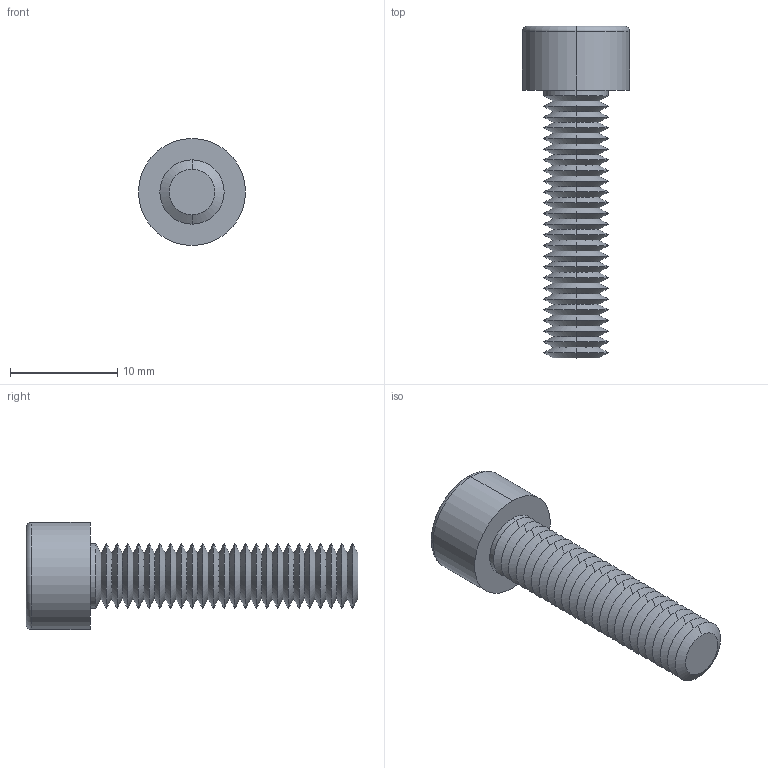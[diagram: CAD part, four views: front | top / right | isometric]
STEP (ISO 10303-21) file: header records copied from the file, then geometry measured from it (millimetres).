
FILE_DESCRIPTION (( 'STEP AP203' ), '1' );
FILE_NAME ('91N.060.0250.step', '2025-05-20T08:52:54', ( '' ), ( '' ), 'SwSTEP 2.0', 'SolidWorks 2019', '' );
FILE_SCHEMA (( 'CONFIG_CONTROL_DESIGN' ));
Length unit declared in the file: millimetre
Products named in the file (1): 91N.060.0250
Bounding box: 10 x 31 x 10 mm (x, y, z)
Volume: 877.8 mm3; surface area: 1213.1 mm2
Topology: 1 solids, 1 shells, 128 faces, 255 edges, 129 vertices
Faces by surface type: cone 107, plane 15, cylinder 4, torus 2
Entity records: 3278 total; most frequent: DIRECTION 627, CARTESIAN_POINT 538, ORIENTED_EDGE 506, EDGE_CURVE 253, AXIS2_PLACEMENT_3D 252, EDGE_LOOP 130, VERTEX_POINT 129, FACE_OUTER_BOUND 128
